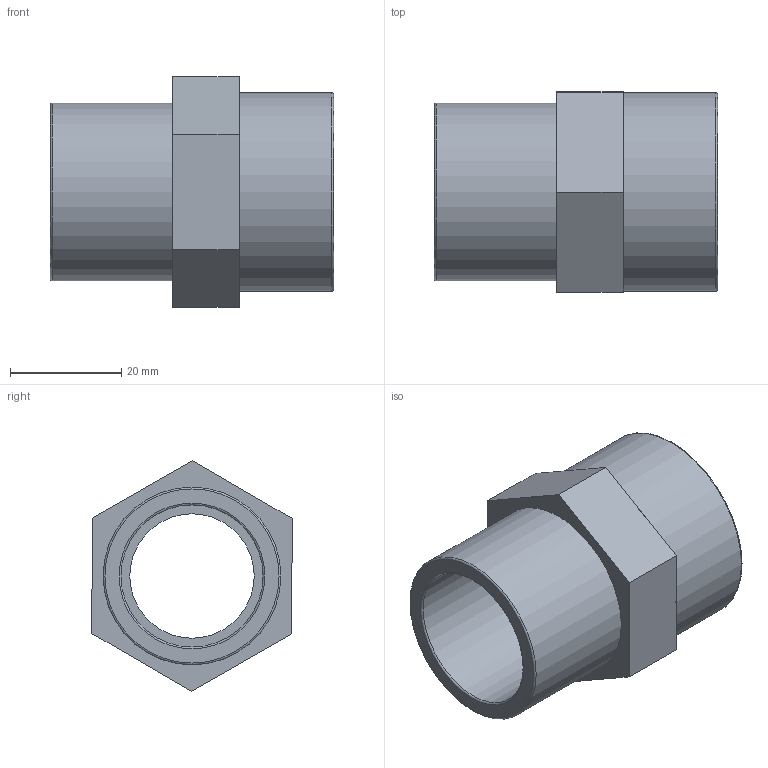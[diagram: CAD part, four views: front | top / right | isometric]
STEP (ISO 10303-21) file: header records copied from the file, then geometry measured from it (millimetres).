
FILE_DESCRIPTION(/* description */ ('PLASSON ADAPTOR SOCKET M.F. 32-1" CEM-THR'),/* implementation_level */ '2;1');
FILE_NAME(/* name */ 'C:\Dropbox\KIMPROJECTS-Inventor\99-16-3568-Processing\PVC Catalog 2017\050302\050302032010.ipt.stp',/* time_stamp */ '2017-12-07T15:54:01+02:00',/* author */ ('KIM'),/* organization */ (''),/* preprocessor_version */ 'ST-DEVELOPER v15.6',/* originating_system */ 'Autodesk Inventor 2015',/* authorisation */ '');
FILE_SCHEMA (('AUTOMOTIVE_DESIGN { 1 0 10303 214 3 1 1 }'));
Length unit declared in the file: millimetre
Products named in the file (1): 050302032010
Bounding box: 51 x 36.06 x 41.57 mm (x, y, z)
Volume: 18417.3 mm3; surface area: 11381.7 mm2
Topology: 1 solids, 1 shells, 21 faces, 41 edges, 26 vertices
Faces by surface type: plane 12, cylinder 5, torus 4
Full cylindrical faces by diameter (mm): 22.4 x1, 25.6 x1, 30.291 x1, 32 x1, 35.84 x1
Entity records: 520 total; most frequent: DIRECTION 90, CARTESIAN_POINT 80, ORIENTED_EDGE 64, EDGE_LOOP 36, AXIS2_PLACEMENT_3D 36, EDGE_CURVE 32, VERTEX_POINT 26, FACE_OUTER_BOUND 21
